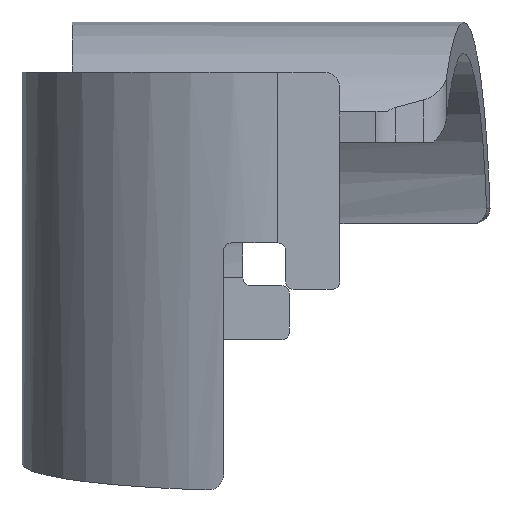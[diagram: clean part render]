
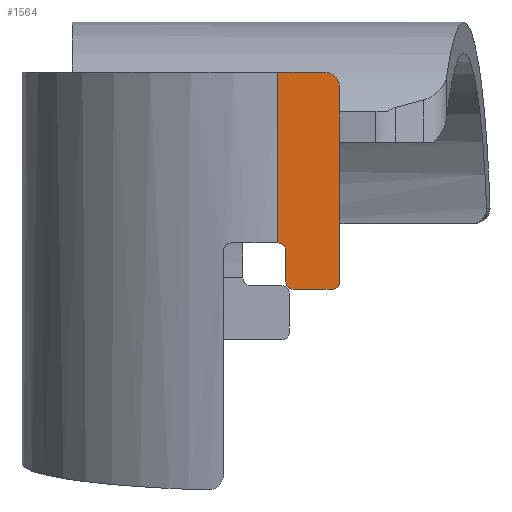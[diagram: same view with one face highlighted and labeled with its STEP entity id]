
A CAD part, left-side view. The second image highlights one B-rep face of the part: STEP entity #1564.
In plain terms, the highlighted planar face has unit normal (-1, 0, 0).
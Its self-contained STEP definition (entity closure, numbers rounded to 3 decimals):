
#12 = VECTOR ( 'NONE', #1997, 1000. ) ;
#70 = CARTESIAN_POINT ( 'NONE',  ( -16.5, 0., 22. ) ) ;
#90 = DIRECTION ( 'NONE',  ( 0., 1., 0. ) ) ;
#100 = AXIS2_PLACEMENT_3D ( 'NONE', #1083, #1717, #1565 ) ;
#111 = EDGE_LOOP ( 'NONE', ( #248, #1950, #1037, #740, #1828, #243, #268, #1303, #264 ) ) ;
#113 = LINE ( 'NONE', #1161, #12 ) ;
#175 = VERTEX_POINT ( 'NONE', #1973 ) ;
#194 = VECTOR ( 'NONE', #2115, 1000. ) ;
#243 = ORIENTED_EDGE ( 'NONE', *, *, #1430, .F. ) ;
#248 = ORIENTED_EDGE ( 'NONE', *, *, #461, .F. ) ;
#250 = LINE ( 'NONE', #1906, #1067 ) ;
#264 = ORIENTED_EDGE ( 'NONE', *, *, #374, .T. ) ;
#268 = ORIENTED_EDGE ( 'NONE', *, *, #916, .T. ) ;
#269 = DIRECTION ( 'NONE',  ( 0., 0., -1. ) ) ;
#297 = CIRCLE ( 'NONE', #1988, 1. ) ;
#300 = CIRCLE ( 'NONE', #831, 0.5 ) ;
#336 = DIRECTION ( 'NONE',  ( 0., 0., -1. ) ) ;
#374 = EDGE_CURVE ( 'NONE', #1363, #175, #570, .T. ) ;
#386 = LINE ( 'NONE', #1650, #406 ) ;
#406 = VECTOR ( 'NONE', #1814, 1000. ) ;
#432 = DIRECTION ( 'NONE',  ( 0., 0., -1. ) ) ;
#461 = EDGE_CURVE ( 'NONE', #1903, #175, #1132, .T. ) ;
#570 = CIRCLE ( 'NONE', #100, 0.5 ) ;
#674 = CARTESIAN_POINT ( 'NONE',  ( -16.5, 0., 10.5 ) ) ;
#740 = ORIENTED_EDGE ( 'NONE', *, *, #2066, .T. ) ;
#771 = CARTESIAN_POINT ( 'NONE',  ( -16.5, -4., 22. ) ) ;
#803 = VERTEX_POINT ( 'NONE', #1584 ) ;
#822 = VERTEX_POINT ( 'NONE', #2093 ) ;
#831 = AXIS2_PLACEMENT_3D ( 'NONE', #674, #1476, #859 ) ;
#852 = DIRECTION ( 'NONE',  ( 0., 0., 1. ) ) ;
#854 = LINE ( 'NONE', #863, #1729 ) ;
#859 = DIRECTION ( 'NONE',  ( 0., 0., -1. ) ) ;
#863 = CARTESIAN_POINT ( 'NONE',  ( -16.5, -0.5, 8. ) ) ;
#866 = CARTESIAN_POINT ( 'NONE',  ( -16.5, 0., 11. ) ) ;
#916 = EDGE_CURVE ( 'NONE', #1720, #1229, #300, .T. ) ;
#951 = AXIS2_PLACEMENT_3D ( 'NONE', #1018, #1027, #336 ) ;
#1018 = CARTESIAN_POINT ( 'NONE',  ( -16.5, -3.5, 8.5 ) ) ;
#1027 = DIRECTION ( 'NONE',  ( -1., 0., 0. ) ) ;
#1037 = ORIENTED_EDGE ( 'NONE', *, *, #1871, .F. ) ;
#1067 = VECTOR ( 'NONE', #90, 1000. ) ;
#1083 = CARTESIAN_POINT ( 'NONE',  ( -16.5, -1., 8.5 ) ) ;
#1098 = CARTESIAN_POINT ( 'NONE',  ( -16.5, -0.5, 10.5 ) ) ;
#1101 = DIRECTION ( 'NONE',  ( -1., 0., 0. ) ) ;
#1132 = LINE ( 'NONE', #1428, #194 ) ;
#1161 = CARTESIAN_POINT ( 'NONE',  ( -16.5, 0., -10.647 ) ) ;
#1197 = VERTEX_POINT ( 'NONE', #70 ) ;
#1229 = VERTEX_POINT ( 'NONE', #1098 ) ;
#1284 = CARTESIAN_POINT ( 'NONE',  ( -16.5, -0.5, 8.5 ) ) ;
#1303 = ORIENTED_EDGE ( 'NONE', *, *, #1893, .F. ) ;
#1363 = VERTEX_POINT ( 'NONE', #1284 ) ;
#1380 = CARTESIAN_POINT ( 'NONE',  ( -16.5, -3., 21. ) ) ;
#1428 = CARTESIAN_POINT ( 'NONE',  ( -16.5, -4., 8. ) ) ;
#1430 = EDGE_CURVE ( 'NONE', #1720, #1197, #113, .T. ) ;
#1476 = DIRECTION ( 'NONE',  ( 1., 0., 0. ) ) ;
#1495 = EDGE_CURVE ( 'NONE', #1903, #822, #1757, .T. ) ;
#1564 = ADVANCED_FACE ( 'NONE', ( #1964 ), #1727, .F. ) ;
#1565 = DIRECTION ( 'NONE',  ( 0., 0., -1. ) ) ;
#1584 = CARTESIAN_POINT ( 'NONE',  ( -16.5, -4., 21. ) ) ;
#1635 = EDGE_CURVE ( 'NONE', #1766, #1197, #250, .T. ) ;
#1642 = CARTESIAN_POINT ( 'NONE',  ( -16.5, -3.5, 8. ) ) ;
#1650 = CARTESIAN_POINT ( 'NONE',  ( -16.5, -4., 22. ) ) ;
#1717 = DIRECTION ( 'NONE',  ( -1., 0., 0. ) ) ;
#1720 = VERTEX_POINT ( 'NONE', #866 ) ;
#1727 = PLANE ( 'NONE',  #1971 ) ;
#1729 = VECTOR ( 'NONE', #852, 1000. ) ;
#1757 = CIRCLE ( 'NONE', #951, 0.5 ) ;
#1766 = VERTEX_POINT ( 'NONE', #2043 ) ;
#1814 = DIRECTION ( 'NONE',  ( 0., 0., -1. ) ) ;
#1828 = ORIENTED_EDGE ( 'NONE', *, *, #1635, .T. ) ;
#1871 = EDGE_CURVE ( 'NONE', #803, #822, #386, .T. ) ;
#1893 = EDGE_CURVE ( 'NONE', #1363, #1229, #854, .T. ) ;
#1903 = VERTEX_POINT ( 'NONE', #1642 ) ;
#1906 = CARTESIAN_POINT ( 'NONE',  ( -16.5, -4., 22. ) ) ;
#1950 = ORIENTED_EDGE ( 'NONE', *, *, #1495, .T. ) ;
#1964 = FACE_OUTER_BOUND ( 'NONE', #111, .T. ) ;
#1971 = AXIS2_PLACEMENT_3D ( 'NONE', #771, #2071, #432 ) ;
#1973 = CARTESIAN_POINT ( 'NONE',  ( -16.5, -1., 8. ) ) ;
#1988 = AXIS2_PLACEMENT_3D ( 'NONE', #1380, #1101, #269 ) ;
#1997 = DIRECTION ( 'NONE',  ( 0., 0., 1. ) ) ;
#2043 = CARTESIAN_POINT ( 'NONE',  ( -16.5, -3., 22. ) ) ;
#2066 = EDGE_CURVE ( 'NONE', #803, #1766, #297, .T. ) ;
#2071 = DIRECTION ( 'NONE',  ( 1., 0., 0. ) ) ;
#2093 = CARTESIAN_POINT ( 'NONE',  ( -16.5, -4., 8.5 ) ) ;
#2115 = DIRECTION ( 'NONE',  ( 0., 1., 0. ) ) ;
